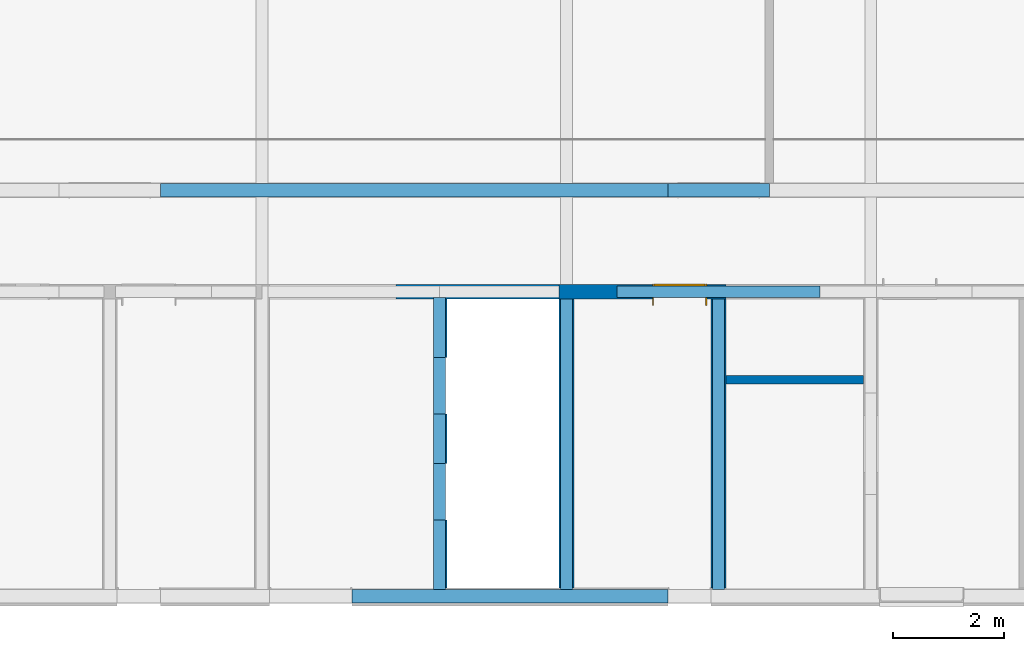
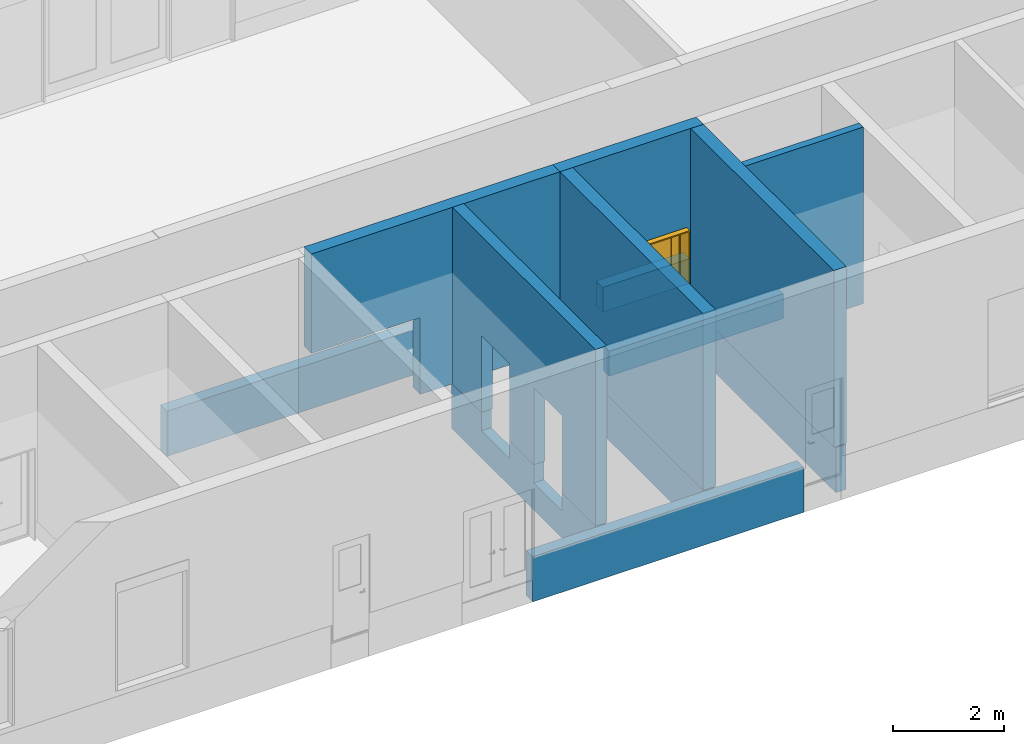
# One storey, part 9 of 22: 13 walls, 1 door, 9 openings.
"""IFC4X3 building model written with IfcOpenShell, lengths in millimetres."""

from ifc_helpers import new_model, entity, si_unit, converted_unit, derived_unit, direction, frame, frame_2d, origin, origin_2d_with_axis, place, context, subcontext, project, spatial, rectangle, extrude, faceted_brep, source, transform, mapped, material, layer, layer_set, constituent, constituent_set, type_object, type_shapes, element, fill, save


model = new_model("IFC4X3")

# Units and contexts
model_context = context("Model", 3, precision=0.01, world=origin(), true_north=direction((6.12303176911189e-17, 1.0)))
body_context = subcontext(model_context, "Body", "Model", "MODEL_VIEW")
ifc_project = project(units=[si_unit("LENGTHUNIT", "METRE", prefix="MILLI"), si_unit("AREAUNIT", "SQUARE_METRE"), si_unit("VOLUMEUNIT", "CUBIC_METRE"), converted_unit("PLANEANGLEUNIT", "DEGREE", entity("IfcPlaneAngleMeasure", 0.0174532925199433), si_unit("PLANEANGLEUNIT", "RADIAN"), dimensions=[0, 0, 0, 0, 0, 0, 0]), si_unit("MASSUNIT", "GRAM", prefix="KILO"), derived_unit("MASSDENSITYUNIT", [(si_unit("MASSUNIT", "GRAM", prefix="KILO"), 1), (si_unit("LENGTHUNIT", "METRE"), -3)]), derived_unit("IONCONCENTRATIONUNIT", [(si_unit("MASSUNIT", "GRAM", prefix="KILO"), 1), (si_unit("LENGTHUNIT", "METRE"), -3)]), derived_unit("MOMENTOFINERTIAUNIT", [(si_unit("LENGTHUNIT", "METRE"), 4)]), si_unit("TIMEUNIT", "SECOND"), si_unit("FREQUENCYUNIT", "HERTZ"), si_unit("THERMODYNAMICTEMPERATUREUNIT", "DEGREE_CELSIUS"), derived_unit("THERMALTRANSMITTANCEUNIT", [(si_unit("MASSUNIT", "GRAM", prefix="KILO"), 1), (si_unit("THERMODYNAMICTEMPERATUREUNIT", "KELVIN"), -1), (si_unit("TIMEUNIT", "SECOND"), -3)]), derived_unit("THERMALCONDUCTANCEUNIT", [(si_unit("MASSUNIT", "GRAM", prefix="KILO"), 1), (si_unit("THERMODYNAMICTEMPERATUREUNIT", "KELVIN"), -1), (si_unit("TIMEUNIT", "SECOND"), -3), (si_unit("LENGTHUNIT", "METRE"), 1)]), derived_unit("VOLUMETRICFLOWRATEUNIT", [(si_unit("LENGTHUNIT", "METRE", prefix="DECI"), 3), (si_unit("TIMEUNIT", "SECOND"), -1)]), derived_unit("MASSFLOWRATEUNIT", [(si_unit("MASSUNIT", "GRAM", prefix="KILO"), 1), (si_unit("TIMEUNIT", "SECOND"), -1)]), derived_unit("ROTATIONALFREQUENCYUNIT", [(si_unit("TIMEUNIT", "SECOND"), -1)]), si_unit("ELECTRICCURRENTUNIT", "AMPERE"), si_unit("ELECTRICVOLTAGEUNIT", "VOLT"), si_unit("POWERUNIT", "WATT"), si_unit("FORCEUNIT", "NEWTON", prefix="KILO"), si_unit("ILLUMINANCEUNIT", "LUX"), si_unit("LUMINOUSFLUXUNIT", "LUMEN"), si_unit("LUMINOUSINTENSITYUNIT", "CANDELA"), si_unit("ENERGYUNIT", "JOULE"), derived_unit("USERDEFINED", [(si_unit("MASSUNIT", "GRAM", prefix="KILO"), -1), (si_unit("LENGTHUNIT", "METRE"), -2), (si_unit("TIMEUNIT", "SECOND"), 3), (si_unit("LUMINOUSFLUXUNIT", "LUMEN"), 1)]), derived_unit("USERDEFINED", [(si_unit("MASSUNIT", "GRAM", prefix="KILO"), 1), (si_unit("TIMEUNIT", "SECOND"), -3), (si_unit("LENGTHUNIT", "METRE"), 3), (si_unit("ELECTRICCURRENTUNIT", "AMPERE"), -2)]), derived_unit("SOUNDPOWERUNIT", [(si_unit("MASSUNIT", "GRAM", prefix="KILO"), 1), (si_unit("TIMEUNIT", "SECOND"), -3), (si_unit("LENGTHUNIT", "METRE"), 2)]), derived_unit("SOUNDPRESSUREUNIT", [(si_unit("MASSUNIT", "GRAM", prefix="KILO"), 1), (si_unit("LENGTHUNIT", "METRE"), -1), (si_unit("TIMEUNIT", "SECOND"), -2)]), derived_unit("LINEARVELOCITYUNIT", [(si_unit("LENGTHUNIT", "METRE"), 1), (si_unit("TIMEUNIT", "SECOND"), -1)]), si_unit("PRESSUREUNIT", "PASCAL"), derived_unit("USERDEFINED", [(si_unit("MASSUNIT", "GRAM", prefix="KILO"), 1), (si_unit("LENGTHUNIT", "METRE"), -2), (si_unit("TIMEUNIT", "SECOND"), -2)]), derived_unit("LINEARFORCEUNIT", [(si_unit("MASSUNIT", "GRAM", prefix="KILO"), 1), (si_unit("TIMEUNIT", "SECOND"), -2)]), derived_unit("PLANARFORCEUNIT", [(si_unit("MASSUNIT", "GRAM", prefix="KILO"), 1), (si_unit("LENGTHUNIT", "METRE"), -1), (si_unit("TIMEUNIT", "SECOND"), -2)]), derived_unit("SPECIFICHEATCAPACITYUNIT", [(si_unit("THERMODYNAMICTEMPERATUREUNIT", "KELVIN"), -1), (si_unit("LENGTHUNIT", "METRE"), 2), (si_unit("TIMEUNIT", "SECOND"), -2)]), derived_unit("HEATFLUXDENSITYUNIT", [(si_unit("MASSUNIT", "GRAM", prefix="KILO"), 1), (si_unit("TIMEUNIT", "SECOND"), -3)]), derived_unit("HEATINGVALUEUNIT", [(si_unit("LENGTHUNIT", "METRE"), 2), (si_unit("TIMEUNIT", "SECOND"), -2)]), derived_unit("VAPORPERMEABILITYUNIT", [(si_unit("LENGTHUNIT", "METRE"), -1), (si_unit("TIMEUNIT", "SECOND"), 1)]), derived_unit("DYNAMICVISCOSITYUNIT", [(si_unit("MASSUNIT", "GRAM", prefix="KILO"), 1), (si_unit("TIMEUNIT", "SECOND"), -1), (si_unit("LENGTHUNIT", "METRE"), -1)]), derived_unit("THERMALEXPANSIONCOEFFICIENTUNIT", [(si_unit("THERMODYNAMICTEMPERATUREUNIT", "KELVIN"), -1)]), derived_unit("MODULUSOFELASTICITYUNIT", [(si_unit("MASSUNIT", "GRAM", prefix="KILO"), 1), (si_unit("LENGTHUNIT", "METRE"), -1), (si_unit("TIMEUNIT", "SECOND"), -2)]), derived_unit("ISOTHERMALMOISTURECAPACITYUNIT", [(si_unit("MASSUNIT", "GRAM", prefix="KILO"), -1), (si_unit("LENGTHUNIT", "METRE"), 3)]), derived_unit("MOISTUREDIFFUSIVITYUNIT", [(si_unit("TIMEUNIT", "SECOND"), -1), (si_unit("LENGTHUNIT", "METRE"), 2)]), derived_unit("AREADENSITYUNIT", [(si_unit("MASSUNIT", "GRAM", prefix="KILO"), 1), (si_unit("LENGTHUNIT", "METRE"), 2)]), derived_unit("MASSPERLENGTHUNIT", [(si_unit("MASSUNIT", "GRAM", prefix="KILO"), 1), (si_unit("LENGTHUNIT", "METRE"), -1)]), derived_unit("THERMALRESISTANCEUNIT", [(si_unit("MASSUNIT", "GRAM", prefix="KILO"), -1), (si_unit("TIMEUNIT", "SECOND"), 3), (si_unit("THERMODYNAMICTEMPERATUREUNIT", "KELVIN"), 1)]), derived_unit("ACCELERATIONUNIT", [(si_unit("LENGTHUNIT", "METRE"), 1), (si_unit("TIMEUNIT", "SECOND"), -2)]), derived_unit("ANGULARVELOCITYUNIT", [(si_unit("TIMEUNIT", "SECOND"), -1), (si_unit("PLANEANGLEUNIT", "RADIAN"), 1)]), derived_unit("LINEARSTIFFNESSUNIT", [(si_unit("MASSUNIT", "GRAM", prefix="KILO"), 1), (si_unit("TIMEUNIT", "SECOND"), -2)]), derived_unit("WARPINGCONSTANTUNIT", [(si_unit("LENGTHUNIT", "METRE"), 6)]), derived_unit("LINEARMOMENTUNIT", [(si_unit("MASSUNIT", "GRAM", prefix="KILO"), 1), (si_unit("LENGTHUNIT", "METRE"), 1), (si_unit("TIMEUNIT", "SECOND"), -2)]), derived_unit("TORQUEUNIT", [(si_unit("MASSUNIT", "GRAM", prefix="KILO"), 1), (si_unit("LENGTHUNIT", "METRE"), 2), (si_unit("TIMEUNIT", "SECOND"), -2)])], contexts=[model_context])

# Site, building, storey
site_placement = place(None, origin())
site = spatial("IfcSite", under=ifc_project, at=site_placement, Name="Default", CompositionType="ELEMENT")
building_placement = place(site_placement, origin())
building = spatial("IfcBuilding", under=site, at=building_placement, Name="事務所ビル", CompositionType="ELEMENT")
storey_placement = place(building_placement, origin())
storey = spatial("IfcBuildingStorey", under=building, at=storey_placement, Name="1FL", CompositionType="ELEMENT", Elevation=0.0)

# Wall, openings
ifc_material_1 = material(Name="*コンクリート")
ifc_layer_1 = layer(ifc_material_1, 240.0, Name="*コンクリート")
ifc_layer_set_1 = layer_set([ifc_layer_1], Name="標準壁:(基礎梁)RC_w240h1000")
wall_type_1 = type_object("IfcWallType", Name="標準壁:(基礎梁)RC_w240h1000", PredefinedType="STANDARD", material=ifc_layer_set_1)
wall_1_placement = place(storey_placement, frame((23452.0, 0.0, -600.0)))
wall_1 = element("IfcWall", 1, at=wall_1_placement, inside=storey, type_object=wall_type_1, material=ifc_layer_set_1, Name="標準壁:(基礎梁)RC_w240h1000", ObjectType="標準壁:(基礎梁)RC_w240h1000", PredefinedType="NOTDEFINED", context=body_context, shape_type="SweptSolid", body=[
    extrude(rectangle(XDim=5668.0, YDim=240.0, at=frame_2d((2834.0, 0.0), x_axis=(-1.0, 0.0))), origin(), (0.0, 0.0, 1.0), 1000.0),
])
opening_1_placement = place(wall_1_placement, frame((-23452.0, 0.0, 500.0)))
element("IfcOpeningElement", 2, at=opening_1_placement, cuts=wall_1, Name="標準壁:(基礎梁)RC_w240h1000", PredefinedType="OPENING", context=body_context, shape_type="SweptSolid", body=[
    extrude(rectangle(XDim=2055.00000000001, YDim=1480.0, at=origin_2d_with_axis()), frame((22712.0, -1404.0, 1012.49999999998), z_axis=(0.0, 1.0, 0.0), x_axis=(0.0, 0.0, -1.0)), (0.0, 0.0, 1.0), 3048.0),
])
opening_2_placement = place(wall_1_placement, frame((6446.0, 120.0, 585.0)))
element("IfcOpeningElement", 3, at=opening_2_placement, cuts=wall_1, Name="鋼製_大枠_片開き_窓付:700x2100:1", PredefinedType="OPENING", context=body_context, shape_type="SweptSolid", body=[
    extrude(rectangle(XDim=2155.00000000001, YDim=779.999999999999, at=frame_2d((1077.5, 390.0), x_axis=(-1.0, 0.0))), frame((0.0, 0.0, 0.0), z_axis=(0.0, -1.0, 0.0), x_axis=(0.0, 0.0, 1.0)), (0.0, 0.0, 1.0), 240.0),
])

# Walls
wall_2_placement = place(storey_placement, frame((20020.0, 7280.0, -600.0)))
element("IfcWall", 4, at=wall_2_placement, inside=storey, type_object=wall_type_1, material=ifc_layer_set_1, Name="標準壁:(基礎梁)RC_w240h1000", ObjectType="標準壁:(基礎梁)RC_w240h1000", PredefinedType="NOTDEFINED", context=body_context, shape_type="SweptSolid", body=[
    extrude(rectangle(XDim=9100.00000000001, YDim=240.0, at=frame_2d((4550.00000000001, 0.0), x_axis=(-1.0, 0.0))), origin(), (0.0, 0.0, 1.0), 1000.0),
])
ifc_layer_2 = layer(ifc_material_1, 240.0, Name="*コンクリート")
ifc_layer_set_2 = layer_set([ifc_layer_2], Name="標準壁:(基礎梁)RC_w240h650")
wall_type_2 = type_object("IfcWallType", Name="標準壁:(基礎梁)RC_w240h650", PredefinedType="STANDARD", material=ifc_layer_set_2)
wall_3_placement = place(storey_placement, frame((29120.0, 7280.0, -600.0)))
element("IfcWall", 5, at=wall_3_placement, inside=storey, type_object=wall_type_2, material=ifc_layer_set_2, Name="標準壁:(基礎梁)RC_w240h650", ObjectType="標準壁:(基礎梁)RC_w240h650", PredefinedType="NOTDEFINED", context=body_context, shape_type="SweptSolid", body=[
    extrude(rectangle(XDim=1820.0, YDim=240.0, at=frame_2d((910.000000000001, 0.0), x_axis=(-1.0, 0.0))), origin(), (0.0, 0.0, 1.0), 550.0),
])
ifc_layer_3 = layer(ifc_material_1, 210.0, Name="*コンクリート")
ifc_layer_set_3 = layer_set([ifc_layer_3], Name="標準壁:(基礎梁)RC_w210h650")
wall_type_3 = type_object("IfcWallType", Name="標準壁:(基礎梁)RC_w210h650", PredefinedType="STANDARD", material=ifc_layer_set_3)
wall_4_placement = place(storey_placement, frame((28210.0, 5460.0, -600.0)))
element("IfcWall", 6, at=wall_4_placement, inside=storey, type_object=wall_type_3, material=ifc_layer_set_3, Name="標準壁:(基礎梁)RC_w210h650", ObjectType="標準壁:(基礎梁)RC_w210h650", PredefinedType="NOTDEFINED", context=body_context, shape_type="SweptSolid", body=[
    extrude(rectangle(XDim=3640.0, YDim=210.0, at=frame_2d((1820.0, 0.0), x_axis=(-1.0, 0.0))), origin(), (0.0, 0.0, 1.0), 550.0),
])

# Wall, openings
ifc_layer_4 = layer(ifc_material_1, 210.0, Name="*コンクリート")
ifc_layer_set_4 = layer_set([ifc_layer_4], Name="標準壁:(基礎梁)RC_w210h1000")
wall_type_4 = type_object("IfcWallType", Name="標準壁:(基礎梁)RC_w210h1000", PredefinedType="STANDARD", material=ifc_layer_set_4)
wall_5_placement = place(storey_placement, frame((25025.0, 5355.0, -600.0), z_axis=(0.0, 0.0, 1.0), x_axis=(0.0, -1.0, 0.0)))
wall_5 = element("IfcWall", 7, at=wall_5_placement, inside=storey, type_object=wall_type_4, material=ifc_layer_set_4, Name="標準壁:(基礎梁)RC_w210h1000", ObjectType="標準壁:(基礎梁)RC_w210h1000", PredefinedType="NOTDEFINED", context=body_context, shape_type="SweptSolid", body=[
    extrude(rectangle(XDim=5235.0, YDim=210.000000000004, at=frame_2d((2617.5, -1.77635683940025e-13), x_axis=(-1.0, 0.0))), origin(), (0.0, 0.0, 1.0), 1000.0),
])
opening_3_placement = place(wall_5_placement, frame((5355.0, -25025.0, 600.0)))
element("IfcOpeningElement", 8, at=opening_3_placement, cuts=wall_5, Name="標準壁:(基礎梁)RC_w210h1000", PredefinedType="OPENING", context=body_context, shape_type="SweptSolid", body=[
    extrude(rectangle(XDim=2100.0, YDim=1016.99999999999, at=frame_2d((2.8421709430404e-13, 0.0), x_axis=(0.0, 1.0))), frame((-3773.37499999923, 23396.0, 1050.0), z_axis=(0.0, 1.0, 0.0), x_axis=(1.0, 0.0, 0.0)), (0.0, 0.0, 1.0), 3048.0),
])
opening_4_placement = place(wall_5_placement, frame((5355.0, -25025.0, 600.0)))
element("IfcOpeningElement", 9, at=opening_4_placement, cuts=wall_5, Name="標準壁:(基礎梁)RC_w210h1000", PredefinedType="OPENING", context=body_context, shape_type="SweptSolid", body=[
    extrude(rectangle(XDim=2100.0, YDim=1016.99999999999, at=origin_2d_with_axis()), frame((-1873.37499999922, 23396.0, 1050.0), z_axis=(0.0, 1.0, 0.0), x_axis=(0.0, 0.0, -1.0)), (0.0, 0.0, 1.0), 3048.0),
])

# Walls
for number, where, z_axis, x_axis in (
    (10, (27300.0, 120.0, -600.0), (0.0, 0.0, 1.0), (0.0, 1.0, 0.0)),
    (11, (30030.0, 120.0, -600.0), (0.0, 0.0, 1.0), (0.0, 1.0, 0.0)),
):
    element("IfcWall", number, at=place(storey_placement, frame(where, z_axis=z_axis, x_axis=x_axis)), inside=storey, type_object=wall_type_4, material=ifc_layer_set_4, Name="標準壁:(基礎梁)RC_w210h1000", ObjectType="標準壁:(基礎梁)RC_w210h1000", PredefinedType="NOTDEFINED", context=body_context, shape_type="SweptSolid", body=[
        extrude(rectangle(XDim=5235.0, YDim=210.000000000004, at=frame_2d((2617.5, -1.77635683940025e-13), x_axis=(-1.0, 0.0))), origin(), (0.0, 0.0, 1.0), 1000.0),
    ])
ifc_material_2 = material(Name="せっこうボード", Category="一般")
ifc_layer_5 = layer(ifc_material_2, 15.0, Name="せっこうボード", Category="一般")
ifc_material_3 = material(Name="合板", Category="一般")
ifc_layer_6 = layer(ifc_material_3, 12.0, Name="合板", Category="一般")
ifc_material_4 = material(Name="天然木材", Category="一般")
ifc_layer_7 = layer(ifc_material_4, 210.0, Name="天然木材", Category="一般")
ifc_layer_8 = layer(ifc_material_3, 12.0, Name="合板", Category="一般")
ifc_layer_9 = layer(ifc_material_2, 15.0, Name="せっこうボード", Category="一般")
ifc_layer_set_5 = layer_set([ifc_layer_5, ifc_layer_6, ifc_layer_7, ifc_layer_8, ifc_layer_9], Name="標準壁:GB-R15_構造用合板12_木210_構造用合板12_GB-R15")
wall_type_5 = type_object("IfcWallType", Name="標準壁:GB-R15_構造用合板12_木210_構造用合板12_GB-R15", PredefinedType="STANDARD", material=ifc_layer_set_5)
wall_6_placement = place(storey_placement, frame((27300.0, 147.0, 400.0), z_axis=(0.0, 0.0, 1.0), x_axis=(0.0, 1.0, 0.0)))
element("IfcWall", 12, at=wall_6_placement, inside=storey, type_object=wall_type_5, material=ifc_layer_set_5, Name="標準壁:GB-R15_構造用合板12_木210_構造用合板12_GB-R15", ObjectType="標準壁:GB-R15_構造用合板12_木210_構造用合板12_GB-R15", PredefinedType="NOTDEFINED", context=body_context, shape_type="SweptSolid", body=[
    extrude(rectangle(XDim=5181.00000000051, YDim=264.000000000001, at=frame_2d((2590.50000000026, -2.27373675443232e-13), x_axis=(-1.0, 0.0))), origin(), (0.0, 0.0, 1.0), 3900.0),
])
wall_7_placement = place(storey_placement, frame((30030.0, 147.0, 400.0), z_axis=(0.0, 0.0, 1.0), x_axis=(0.0, 1.0, 0.0)))
element("IfcWall", 13, at=wall_7_placement, inside=storey, type_object=wall_type_5, material=ifc_layer_set_5, Name="標準壁:GB-R15_構造用合板12_木210_構造用合板12_GB-R15", ObjectType="標準壁:GB-R15_構造用合板12_木210_構造用合板12_GB-R15", PredefinedType="NOTDEFINED", context=body_context, shape_type="SweptSolid", body=[
    extrude(rectangle(XDim=5181.00000000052, YDim=264.000000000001, at=frame_2d((2590.50000000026, -2.27373675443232e-13), x_axis=(-1.0, 0.0))), origin(), (0.0, 0.0, 1.0), 3900.0),
])

# Wall, openings
wall_8_placement = place(storey_placement, frame((21972.0, 5460.0, 400.0)))
wall_8 = element("IfcWall", 14, at=wall_8_placement, inside=storey, type_object=wall_type_5, material=ifc_layer_set_5, Name="標準壁:GB-R15_構造用合板12_木210_構造用合板12_GB-R15", ObjectType="標準壁:GB-R15_構造用合板12_木210_構造用合板12_GB-R15", PredefinedType="NOTDEFINED", context=body_context, shape_type="SweptSolid", body=[
    extrude(rectangle(XDim=5196.0, YDim=264.000000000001, at=frame_2d((2598.0, -2.1316282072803e-13), x_axis=(-1.0, 0.0))), origin(), (0.0, 0.0, 1.0), 3900.0),
])
opening_5_placement = place(wall_8_placement, frame((-21972.0, -5460.0, 3900.0)))
element("IfcOpeningElement", 15, at=opening_5_placement, cuts=wall_8, Name="標準壁:GB-R15_構造用合板12_木210_構造用合板12_GB-R15", PredefinedType="OPENING", context=body_context, shape_type="SweptSolid", body=[
    extrude(rectangle(XDim=2100.0, YDim=2275.0, at=frame_2d((-2.1600499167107e-12, 5.6843418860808e-13), x_axis=(0.0, 1.0))), frame((23109.5, 3804.0, 1050.0), z_axis=(0.0, 1.0, 0.0), x_axis=(1.0, 0.0, 0.0)), (0.0, 0.0, 1.0), 3048.0),
])
opening_6_placement = place(wall_8_placement, frame((0.0, -132.0, -400.0)))
element("IfcOpeningElement", 16, at=opening_6_placement, cuts=wall_8, Name="ドア-開口部:2275 x 2100mm:1", PredefinedType="OPENING", context=body_context, shape_type="SweptSolid", body=[
    extrude(rectangle(XDim=2100.0, YDim=2275.0, at=frame_2d((1050.0, 1137.5), x_axis=(-1.0, 0.0))), frame((0.0, 0.0, 0.0), z_axis=(0.0, 1.0, 0.0), x_axis=(0.0, 0.0, 1.0)), (0.0, 0.0, 1.0), 264.0),
])

# Wall, opening, door
wall_9_placement = place(storey_placement, frame((27168.0, 5460.0, 400.0)))
wall_9 = element("IfcWall", 17, at=wall_9_placement, inside=storey, type_object=wall_type_5, material=ifc_layer_set_5, Name="標準壁:GB-R15_構造用合板12_木210_構造用合板12_GB-R15", ObjectType="標準壁:GB-R15_構造用合板12_木210_構造用合板12_GB-R15", PredefinedType="NOTDEFINED", context=body_context, shape_type="SweptSolid", body=[
    extrude(rectangle(XDim=2994.00000000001, YDim=264.000000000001, at=frame_2d((1497.0, -5.6843418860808e-14), x_axis=(-1.0, 0.0))), origin(), (0.0, 0.0, 1.0), 3900.0),
])
opening_7_placement = place(wall_9_placement, frame((1672.0, -132.0, -400.0)))
opening_7 = element("IfcOpeningElement", 18, at=opening_7_placement, cuts=wall_9, Name="鋼製_一般枠_片開き 1:鋼製_一般枠_片開き 1:1", PredefinedType="OPENING", context=body_context, shape_type="SweptSolid", body=[
    extrude(rectangle(XDim=2140.0, YDim=979.999999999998, at=frame_2d((1070.0, 489.999999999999), x_axis=(-1.0, 0.0))), frame((0.0, 0.0, 0.0), z_axis=(0.0, 1.0, 0.0), x_axis=(0.0, 0.0, 1.0)), (0.0, 0.0, 1.0), 264.0),
])
ifc_material_5 = material(Name="金属 - アルミニウム", Category="未設定")
ifc_constituent_1 = constituent(ifc_material_5, Name="金属 - アルミニウム", Category="未設定")
ifc_material_6 = material(Name="塗装 - 白", Category="未設定")
ifc_constituent_2 = constituent(ifc_material_6, Name="塗装 - 白", Category="未設定")
ifc_material_7 = material(Name="ガラス", Category="ガラス")
ifc_constituent_3 = constituent(ifc_material_7, Name="ガラス", Category="ガラス")
ifc_constituent_set_1 = constituent_set(constituents=[ifc_constituent_1, ifc_constituent_2, ifc_constituent_3])
ifc_constituent_4 = constituent(ifc_material_5, Name="金属 - アルミニウム", Category="未設定")
ifc_constituent_5 = constituent(ifc_material_6, Name="パネル", Category="未設定")
ifc_constituent_6 = constituent(ifc_material_7, Name="ガラス", Category="ガラス")
ifc_constituent_7 = constituent(ifc_material_5, Name="フレーム/マリオン", Category="未設定")
ifc_constituent_set_2 = constituent_set(constituents=[ifc_constituent_4, ifc_constituent_5, ifc_constituent_6, ifc_constituent_7])
door_type = type_object("IfcDoorType", Name="鋼製_一般枠_片開き 1:鋼製_一般枠_片開き 1", OperationType="SINGLE_SWING_RIGHT", ParameterTakesPrecedence=False, PredefinedType="DOOR", material=ifc_constituent_set_2)
shared_shape = source(origin(), body_context, "Body", "Brep", [
    faceted_brep([(190.0, 269.0, 493.333333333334), (190.0, 239.0, 508.333333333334), (190.0, 229.0, 503.333333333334), (190.0, 229.0, 508.333333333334), (190.0, 239.0, 513.333333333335), (190.0, 269.0, 498.333333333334), (790.0, 269.0, 493.333333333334), (790.0, 269.0, 498.333333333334), (790.0, 239.0, 513.333333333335), (790.0, 229.0, 508.333333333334), (790.0, 229.0, 503.333333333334), (790.0, 239.0, 508.333333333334)], [[[0, 1, 2, 3, 4, 5]], [[6, 7, 8, 9, 10, 11]], [[1, 0, 6, 11]], [[2, 1, 11, 10]], [[3, 2, 10, 9]], [[4, 3, 9, 8]], [[5, 4, 8, 7]], [[0, 5, 7, 6]]]),
    faceted_brep([(190.0, 269.0, 466.666666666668), (190.0, 239.0, 481.666666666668), (190.0, 229.0, 476.666666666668), (190.0, 229.0, 481.666666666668), (190.0, 239.0, 486.666666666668), (190.0, 269.0, 471.666666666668), (790.0, 269.0, 466.666666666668), (790.0, 269.0, 471.666666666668), (790.0, 239.0, 486.666666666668), (790.0, 229.0, 481.666666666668), (790.0, 229.0, 476.666666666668), (790.0, 239.0, 481.666666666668)], [[[0, 1, 2, 3, 4, 5]], [[6, 7, 8, 9, 10, 11]], [[1, 0, 6, 11]], [[2, 1, 11, 10]], [[3, 2, 10, 9]], [[4, 3, 9, 8]], [[5, 4, 8, 7]], [[0, 5, 7, 6]]]),
    faceted_brep([(190.0, 269.0, 440.0), (190.0, 239.0, 455.0), (190.0, 229.0, 450.0), (190.0, 229.0, 455.0), (190.0, 239.0, 460.0), (190.0, 269.0, 445.0), (790.0, 269.0, 440.0), (790.0, 269.0, 445.0), (790.0, 239.0, 460.0), (790.0, 229.0, 455.0), (790.0, 229.0, 450.0), (790.0, 239.0, 455.0)], [[[0, 1, 2, 3, 4, 5]], [[6, 7, 8, 9, 10, 11]], [[1, 0, 6, 11]], [[2, 1, 11, 10]], [[3, 2, 10, 9]], [[4, 3, 9, 8]], [[5, 4, 8, 7]], [[0, 5, 7, 6]]]),
    faceted_brep([(190.0, 269.0, 413.333333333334), (190.0, 239.0, 428.333333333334), (190.0, 229.0, 423.333333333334), (190.0, 229.0, 428.333333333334), (190.0, 239.0, 433.333333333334), (190.0, 269.0, 418.333333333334), (790.0, 269.0, 413.333333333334), (790.0, 269.0, 418.333333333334), (790.0, 239.0, 433.333333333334), (790.0, 229.0, 428.333333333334), (790.0, 229.0, 423.333333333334), (790.0, 239.0, 428.333333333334)], [[[0, 1, 2, 3, 4, 5]], [[6, 7, 8, 9, 10, 11]], [[1, 0, 6, 11]], [[2, 1, 11, 10]], [[3, 2, 10, 9]], [[4, 3, 9, 8]], [[5, 4, 8, 7]], [[0, 5, 7, 6]]]),
    faceted_brep([(190.0, 269.0, 386.666666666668), (190.0, 239.0, 401.666666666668), (190.0, 229.0, 396.666666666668), (190.0, 229.0, 401.666666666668), (190.0, 239.0, 406.666666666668), (190.0, 269.0, 391.666666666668), (790.0, 269.0, 386.666666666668), (790.0, 269.0, 391.666666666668), (790.0, 239.0, 406.666666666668), (790.0, 229.0, 401.666666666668), (790.0, 229.0, 396.666666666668), (790.0, 239.0, 401.666666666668)], [[[0, 1, 2, 3, 4, 5]], [[6, 7, 8, 9, 10, 11]], [[1, 0, 6, 11]], [[2, 1, 11, 10]], [[3, 2, 10, 9]], [[4, 3, 9, 8]], [[5, 4, 8, 7]], [[0, 5, 7, 6]]]),
    faceted_brep([(190.0, 269.0, 360.0), (190.0, 239.0, 375.0), (190.0, 229.0, 370.0), (190.0, 229.0, 375.0), (190.0, 239.0, 380.0), (190.0, 269.0, 365.0), (790.0, 269.0, 360.0), (790.0, 269.0, 365.0), (790.0, 239.0, 380.0), (790.0, 229.0, 375.0), (790.0, 229.0, 370.0), (790.0, 239.0, 375.0)], [[[0, 1, 2, 3, 4, 5]], [[6, 7, 8, 9, 10, 11]], [[1, 0, 6, 11]], [[2, 1, 11, 10]], [[3, 2, 10, 9]], [[4, 3, 9, 8]], [[5, 4, 8, 7]], [[0, 5, 7, 6]]]),
    faceted_brep([(190.0, 269.0, 333.333333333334), (190.0, 239.0, 348.333333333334), (190.0, 229.0, 343.333333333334), (190.0, 229.0, 348.333333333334), (190.0, 239.0, 353.333333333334), (190.0, 269.0, 338.333333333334), (790.0, 269.0, 333.333333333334), (790.0, 269.0, 338.333333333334), (790.0, 239.0, 353.333333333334), (790.0, 229.0, 348.333333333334), (790.0, 229.0, 343.333333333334), (790.0, 239.0, 348.333333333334)], [[[0, 1, 2, 3, 4, 5]], [[6, 7, 8, 9, 10, 11]], [[1, 0, 6, 11]], [[2, 1, 11, 10]], [[3, 2, 10, 9]], [[4, 3, 9, 8]], [[5, 4, 8, 7]], [[0, 5, 7, 6]]]),
    faceted_brep([(190.0, 269.0, 306.666666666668), (190.0, 239.0, 321.666666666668), (190.0, 229.0, 316.666666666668), (190.0, 229.0, 321.666666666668), (190.0, 239.0, 326.666666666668), (190.0, 269.0, 311.666666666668), (790.0, 269.0, 306.666666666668), (790.0, 269.0, 311.666666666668), (790.0, 239.0, 326.666666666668), (790.0, 229.0, 321.666666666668), (790.0, 229.0, 316.666666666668), (790.0, 239.0, 321.666666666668)], [[[0, 1, 2, 3, 4, 5]], [[6, 7, 8, 9, 10, 11]], [[1, 0, 6, 11]], [[2, 1, 11, 10]], [[3, 2, 10, 9]], [[4, 3, 9, 8]], [[5, 4, 8, 7]], [[0, 5, 7, 6]]]),
    faceted_brep([(190.0, 269.0, 520.0), (190.0, 239.0, 535.0), (190.0, 229.0, 530.0), (190.0, 229.0, 535.0), (190.0, 239.0, 540.0), (190.0, 269.0, 525.0), (790.0, 269.0, 520.0), (790.0, 269.0, 525.0), (790.0, 239.0, 540.0), (790.0, 229.0, 535.0), (790.0, 229.0, 530.0), (790.0, 239.0, 535.0)], [[[0, 1, 2, 3, 4, 5]], [[6, 7, 8, 9, 10, 11]], [[1, 0, 6, 11]], [[2, 1, 11, 10]], [[3, 2, 10, 9]], [[4, 3, 9, 8]], [[5, 4, 8, 7]], [[0, 5, 7, 6]]]),
    faceted_brep([(190.0, 269.0, 280.0), (190.0, 239.0, 295.0), (190.0, 229.0, 290.0), (190.0, 229.0, 295.0), (190.0, 239.0, 300.0), (190.0, 269.0, 285.0), (790.0, 269.0, 280.0), (790.0, 269.0, 285.0), (790.0, 239.0, 300.0), (790.0, 229.0, 295.0), (790.0, 229.0, 290.0), (790.0, 239.0, 295.0)], [[[0, 1, 2, 3, 4, 5]], [[6, 7, 8, 9, 10, 11]], [[1, 0, 6, 11]], [[2, 1, 11, 10]], [[3, 2, 10, 9]], [[4, 3, 9, 8]], [[5, 4, 8, 7]], [[0, 5, 7, 6]]]),
    faceted_brep([(180.0, 269.0, 260.0), (180.0, 269.0, 560.0), (800.0, 269.0, 560.0), (800.0, 269.0, 260.0), (190.0, 269.0, 270.0), (790.0, 269.0, 270.0), (790.0, 269.0, 550.0), (190.0, 269.0, 550.0), (180.0, 229.0, 260.0), (800.0, 229.0, 260.0), (800.0, 229.0, 560.0), (180.0, 229.0, 560.0), (190.0, 229.0, 270.0), (190.0, 229.0, 550.0), (790.0, 229.0, 550.0), (790.0, 229.0, 270.0)], [[[0, 1, 2, 3], [4, 5, 6, 7]], [[8, 9, 10, 11], [12, 13, 14, 15]], [[1, 0, 8, 11]], [[2, 1, 11, 10]], [[3, 2, 10, 9]], [[0, 3, 9, 8]], [[5, 4, 12, 15]], [[6, 5, 15, 14]], [[7, 6, 14, 13]], [[4, 7, 13, 12]]]),
    faceted_brep([(180.0, 229.0, 1210.0), (800.0, 229.0, 1210.0), (800.0, 229.0, 1960.0), (180.0, 229.0, 1960.0), (190.0, 229.0, 1220.0), (190.0, 229.0, 1950.0), (790.0, 229.0, 1950.0), (790.0, 229.0, 1220.0), (180.0, 269.0, 1210.0), (180.0, 269.0, 1960.0), (800.0, 269.0, 1960.0), (800.0, 269.0, 1210.0), (190.0, 269.0, 1220.0), (790.0, 269.0, 1220.0), (790.0, 269.0, 1950.0), (190.0, 269.0, 1950.0)], [[[0, 1, 2, 3], [4, 5, 6, 7]], [[8, 9, 10, 11], [12, 13, 14, 15]], [[3, 9, 8, 0]], [[2, 10, 9, 3]], [[1, 11, 10, 2]], [[0, 8, 11, 1]], [[7, 13, 12, 4]], [[6, 14, 13, 7]], [[5, 15, 14, 6]], [[4, 12, 15, 5]]]),
    faceted_brep([(180.0, 244.0, 1210.0), (800.0, 244.0, 1210.0), (800.0, 244.0, 1960.0), (180.0, 244.0, 1960.0), (180.0, 249.0, 1210.0), (180.0, 249.0, 1960.0), (800.0, 249.0, 1960.0), (800.0, 249.0, 1210.0)], [[[0, 1, 2, 3]], [[4, 5, 6, 7]], [[3, 5, 4, 0]], [[2, 6, 5, 3]], [[1, 7, 6, 2]], [[0, 4, 7, 1]]]),
    faceted_brep([(30.0, 229.0, 10.0), (950.0, 229.0, 10.0), (950.0, 229.0, 2110.0), (30.0, 229.0, 2110.0), (180.0, 229.0, 260.0), (180.0, 229.0, 560.0), (800.0, 229.0, 560.0), (800.0, 229.0, 260.0), (180.0, 229.0, 1210.0), (180.0, 229.0, 1960.0), (800.0, 229.0, 1960.0), (800.0, 229.0, 1210.0), (30.0, 269.0, 10.0), (30.0, 269.0, 2110.0), (950.0, 269.0, 2110.0), (950.0, 269.0, 10.0), (180.0, 269.0, 260.0), (800.0, 269.0, 260.0), (800.0, 269.0, 560.0), (180.0, 269.0, 560.0), (180.0, 269.0, 1210.0), (800.0, 269.0, 1210.0), (800.0, 269.0, 1960.0), (180.0, 269.0, 1960.0)], [[[0, 1, 2, 3], [4, 5, 6, 7], [8, 9, 10, 11]], [[12, 13, 14, 15], [16, 17, 18, 19], [20, 21, 22, 23]], [[3, 13, 12, 0]], [[2, 14, 13, 3]], [[1, 15, 14, 2]], [[0, 12, 15, 1]], [[7, 17, 16, 4]], [[6, 18, 17, 7]], [[5, 19, 18, 6]], [[4, 16, 19, 5]], [[11, 21, 20, 8]], [[10, 22, 21, 11]], [[9, 23, 22, 10]], [[8, 20, 23, 9]]]),
    faceted_brep([(25.0, 274.0, 0.0), (25.0, 224.0, 0.0), (40.0, 224.0, 0.0), (40.0, 194.0, 0.0), (25.0, 194.0, 0.0), (25.0, -110.0, 0.0), (0.0, -110.0, 0.0), (0.0, 274.0, 0.0), (0.0, 274.0, 2140.0), (980.0, 274.0, 2140.0), (980.0, 274.0, 0.0), (955.0, 274.0, 0.0), (955.0, 274.0, 2115.0), (25.0, 274.0, 2115.0), (0.0, -110.0, 2140.0), (25.0, -110.0, 2115.0), (955.0, -110.0, 2115.0), (955.0, -110.0, 0.0), (980.0, -110.0, 0.0), (980.0, -110.0, 2140.0), (25.0, 194.0, 2115.0), (40.0, 194.0, 2100.0), (940.0, 194.0, 2100.0), (940.0, 194.0, 0.0), (955.0, 194.0, 0.0), (955.0, 194.0, 2115.0), (40.0, 224.0, 2100.0), (25.0, 224.0, 2115.0), (955.0, 224.0, 2115.0), (955.0, 224.0, 0.0), (940.0, 224.0, 0.0), (940.0, 224.0, 2100.0)], [[[0, 1, 2, 3, 4, 5, 6, 7]], [[7, 8, 9, 10, 11, 12, 13, 0]], [[6, 14, 8, 7]], [[5, 15, 16, 17, 18, 19, 14, 6]], [[4, 20, 15, 5]], [[3, 21, 22, 23, 24, 25, 20, 4]], [[2, 26, 21, 3]], [[1, 27, 28, 29, 30, 31, 26, 2]], [[0, 13, 27, 1]], [[14, 19, 9, 8]], [[20, 25, 16, 15]], [[26, 31, 22, 21]], [[13, 12, 28, 27]], [[11, 10, 18, 17, 24, 23, 30, 29]], [[19, 18, 10, 9]], [[25, 24, 17, 16]], [[31, 30, 23, 22]], [[12, 11, 29, 28]]]),
])
type_shapes(door_type, [shared_shape])
door_placement = place(opening_7_placement, origin())
door = element("IfcDoor", 19, at=door_placement, inside=storey, type_object=door_type, material=ifc_constituent_set_1, Name="鋼製_一般枠_片開き 1:鋼製_一般枠_片開き 1", ObjectType="鋼製_一般枠_片開き 1:鋼製_一般枠_片開き 1", OperationType="SINGLE_SWING_RIGHT", OverallHeight=2140.0, OverallWidth=979.999999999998, PredefinedType="DOOR", context=body_context, shape_type="MappedRepresentation", body=[
    mapped(shared_shape, transform((0.0, 0.0, 0.0), scale=1.0)),
])
fill(opening_7, door)

# Wall
ifc_material_8 = material(Name="<Unnamed>")
ifc_layer_10 = layer(ifc_material_8, 15.0, Name="Layer")
ifc_layer_11 = layer(ifc_material_4, 120.0, Name="天然木材", Category="一般")
ifc_layer_12 = layer(ifc_material_8, 15.0, Name="Layer")
ifc_layer_set_6 = layer_set([ifc_layer_10, ifc_layer_11, ifc_layer_12], Name="標準壁:GB-R15_木120_GB-R15")
wall_type_6 = type_object("IfcWallType", Name="標準壁:GB-R15_木120_GB-R15", PredefinedType="STANDARD", material=ifc_layer_set_6)
wall_10_placement = place(storey_placement, frame((32628.0, 3880.0, 400.0), z_axis=(0.0, 0.0, 1.0), x_axis=(-1.0, 0.0, 0.0)))
element("IfcWall", 20, at=wall_10_placement, inside=storey, type_object=wall_type_6, material=ifc_layer_set_6, Name="標準壁:GB-R15_木120_GB-R15", ObjectType="標準壁:GB-R15_木120_GB-R15", PredefinedType="NOTDEFINED", context=body_context, shape_type="SweptSolid", body=[
    extrude(rectangle(XDim=2465.99999999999, YDim=149.999999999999, at=frame_2d((1232.99999999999, 4.9737991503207e-14), x_axis=(-1.0, 0.0))), origin(), (0.0, 0.0, 1.0), 3900.0),
])

# Wall, openings
ifc_layer_13 = layer(ifc_material_4, 210.0, Name="天然木材", Category="一般")
ifc_layer_14 = layer(ifc_material_8, 12.0, Name="Layer")
ifc_layer_15 = layer(ifc_material_8, 15.0, Name="Layer")
ifc_layer_set_7 = layer_set([ifc_layer_13, ifc_layer_14, ifc_layer_15], Name="標準壁:(内壁)木210/構造用合板12/GB-R15)/*")
wall_type_7 = type_object("IfcWallType", Name="標準壁:(内壁)木210/構造用合板12/GB-R15)/*", PredefinedType="STANDARD", material=ifc_layer_set_7)
wall_11_placement = place(storey_placement, frame((25038.5, 147.0, 400.0), z_axis=(0.0, 0.0, 1.0), x_axis=(0.0, 1.0, 0.0)))
wall_11 = element("IfcWall", 21, at=wall_11_placement, inside=storey, type_object=wall_type_7, material=ifc_layer_set_7, Name="標準壁:(内壁)木210/構造用合板12/GB-R15)/*", ObjectType="標準壁:(内壁)木210/構造用合板12/GB-R15)/*", PredefinedType="NOTDEFINED", context=body_context, shape_type="SweptSolid", body=[
    extrude(rectangle(XDim=5181.0000000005, YDim=236.999999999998, at=frame_2d((2590.50000000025, -2.20268248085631e-13), x_axis=(-1.0, 0.0))), origin(), (0.0, 0.0, 1.0), 3900.0),
])
opening_8_placement = place(wall_11_placement, frame((-147.0, 25038.5, -400.0)))
element("IfcOpeningElement", 22, at=opening_8_placement, cuts=wall_11, Name="標準壁:(内壁)木210/構造用合板12/GB-R15)/*", PredefinedType="OPENING", context=body_context, shape_type="SweptSolid", body=[
    extrude(rectangle(XDim=2100.0, YDim=1016.99999999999, at=frame_2d((0.0, -2.8421709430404e-13), x_axis=(1.0, 0.0))), frame((3773.37499999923, -26444.0, 1050.0), z_axis=(0.0, 1.0, 0.0), x_axis=(0.0, 0.0, -1.0)), (0.0, 0.0, 1.0), 3048.0),
])
opening_9_placement = place(wall_11_placement, frame((-147.0, 25038.5, -400.0)))
element("IfcOpeningElement", 23, at=opening_9_placement, cuts=wall_11, Name="標準壁:(内壁)木210/構造用合板12/GB-R15)/*", PredefinedType="OPENING", context=body_context, shape_type="SweptSolid", body=[
    extrude(rectangle(XDim=2100.0, YDim=1016.99999999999, at=frame_2d((0.0, 0.0), x_axis=(0.0, 1.0))), frame((1873.37499999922, -26444.0, 1050.0), z_axis=(0.0, 1.0, 0.0), x_axis=(1.0, 0.0, 0.0)), (0.0, 0.0, 1.0), 3048.0),
])

save(model, "model.ifc")
